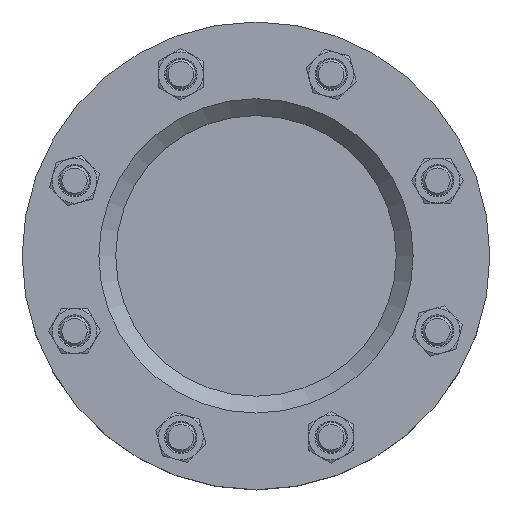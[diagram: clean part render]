
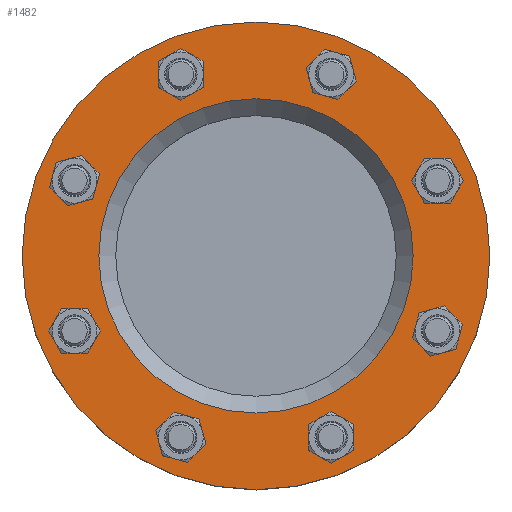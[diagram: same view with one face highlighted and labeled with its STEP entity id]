
A CAD part, top view. The second image highlights one B-rep face of the part: STEP entity #1482.
In plain terms, the highlighted planar face has unit normal (0, 0, 1) as drawn and (0, 0, -1) by its records, which use the part's own axes.
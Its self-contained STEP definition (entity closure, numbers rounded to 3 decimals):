
#179=PLANE('',#1644);
#283=ORIENTED_EDGE('',*,*,#435,.F.);
#284=ORIENTED_EDGE('',*,*,#436,.F.);
#285=ORIENTED_EDGE('',*,*,#437,.F.);
#286=ORIENTED_EDGE('',*,*,#438,.F.);
#287=ORIENTED_EDGE('',*,*,#439,.F.);
#288=ORIENTED_EDGE('',*,*,#440,.F.);
#289=ORIENTED_EDGE('',*,*,#441,.F.);
#290=ORIENTED_EDGE('',*,*,#442,.F.);
#291=ORIENTED_EDGE('',*,*,#443,.T.);
#292=ORIENTED_EDGE('',*,*,#425,.T.);
#425=EDGE_CURVE('',#529,#529,#619,.T.);
#435=EDGE_CURVE('',#539,#539,#629,.T.);
#436=EDGE_CURVE('',#540,#540,#630,.T.);
#437=EDGE_CURVE('',#541,#541,#631,.T.);
#438=EDGE_CURVE('',#542,#542,#632,.T.);
#439=EDGE_CURVE('',#543,#543,#633,.T.);
#440=EDGE_CURVE('',#544,#544,#634,.T.);
#441=EDGE_CURVE('',#545,#545,#635,.T.);
#442=EDGE_CURVE('',#546,#546,#636,.T.);
#443=EDGE_CURVE('',#547,#547,#637,.F.);
#529=VERTEX_POINT('',#2227);
#539=VERTEX_POINT('',#2249);
#540=VERTEX_POINT('',#2251);
#541=VERTEX_POINT('',#2253);
#542=VERTEX_POINT('',#2255);
#543=VERTEX_POINT('',#2257);
#544=VERTEX_POINT('',#2259);
#545=VERTEX_POINT('',#2261);
#546=VERTEX_POINT('',#2263);
#547=VERTEX_POINT('',#2265);
#619=CIRCLE('',#1633,125.);
#629=CIRCLE('',#1645,9.);
#630=CIRCLE('',#1646,9.);
#631=CIRCLE('',#1647,9.);
#632=CIRCLE('',#1648,9.);
#633=CIRCLE('',#1649,9.);
#634=CIRCLE('',#1650,9.);
#635=CIRCLE('',#1651,9.);
#636=CIRCLE('',#1652,9.);
#637=CIRCLE('',#1653,84.);
#747=EDGE_LOOP('',(#283));
#748=EDGE_LOOP('',(#284));
#749=EDGE_LOOP('',(#285));
#750=EDGE_LOOP('',(#286));
#751=EDGE_LOOP('',(#287));
#752=EDGE_LOOP('',(#288));
#753=EDGE_LOOP('',(#289));
#754=EDGE_LOOP('',(#290));
#755=EDGE_LOOP('',(#291));
#756=EDGE_LOOP('',(#292));
#919=FACE_BOUND('',#747,.T.);
#920=FACE_BOUND('',#748,.T.);
#921=FACE_BOUND('',#749,.T.);
#922=FACE_BOUND('',#750,.T.);
#923=FACE_BOUND('',#751,.T.);
#924=FACE_BOUND('',#752,.T.);
#925=FACE_BOUND('',#753,.T.);
#926=FACE_BOUND('',#754,.T.);
#927=FACE_BOUND('',#755,.T.);
#928=FACE_BOUND('',#756,.T.);
#1482=ADVANCED_FACE('',(#919,#920,#921,#922,#923,#924,#925,#926,#927,#928),
#179,.T.);
#1633=AXIS2_PLACEMENT_3D('',#2226,#1901,#1902);
#1644=AXIS2_PLACEMENT_3D('',#2247,#1923,#1924);
#1645=AXIS2_PLACEMENT_3D('',#2248,#1925,#1926);
#1646=AXIS2_PLACEMENT_3D('',#2250,#1927,#1928);
#1647=AXIS2_PLACEMENT_3D('',#2252,#1929,#1930);
#1648=AXIS2_PLACEMENT_3D('',#2254,#1931,#1932);
#1649=AXIS2_PLACEMENT_3D('',#2256,#1933,#1934);
#1650=AXIS2_PLACEMENT_3D('',#2258,#1935,#1936);
#1651=AXIS2_PLACEMENT_3D('',#2260,#1937,#1938);
#1652=AXIS2_PLACEMENT_3D('',#2262,#1939,#1940);
#1653=AXIS2_PLACEMENT_3D('',#2264,#1941,#1942);
#1901=DIRECTION('',(0.,0.,-1.));
#1902=DIRECTION('',(1.,0.,0.));
#1923=DIRECTION('',(0.,0.,-1.));
#1924=DIRECTION('',(-1.,0.,0.));
#1925=DIRECTION('',(0.,0.,-1.));
#1926=DIRECTION('',(0.707,-0.707,0.));
#1927=DIRECTION('',(0.,0.,-1.));
#1928=DIRECTION('',(0.,-1.,0.));
#1929=DIRECTION('',(0.,0.,-1.));
#1930=DIRECTION('',(-0.707,-0.707,0.));
#1931=DIRECTION('',(0.,0.,-1.));
#1932=DIRECTION('',(-1.,0.,0.));
#1933=DIRECTION('',(0.,0.,-1.));
#1934=DIRECTION('',(-0.707,0.707,0.));
#1935=DIRECTION('',(0.,0.,-1.));
#1936=DIRECTION('',(0.,1.,0.));
#1937=DIRECTION('',(0.,0.,-1.));
#1938=DIRECTION('',(0.707,0.707,0.));
#1939=DIRECTION('',(0.,0.,-1.));
#1940=DIRECTION('',(1.,0.,0.));
#1941=DIRECTION('',(0.,0.,-1.));
#1942=DIRECTION('',(-1.,0.,0.));
#2226=CARTESIAN_POINT('',(0.,0.,0.));
#2227=CARTESIAN_POINT('',(125.,0.,0.));
#2247=CARTESIAN_POINT('',(0.,0.,0.));
#2248=CARTESIAN_POINT('',(-40.182,-97.007,0.));
#2249=CARTESIAN_POINT('',(-33.818,-103.371,0.));
#2250=CARTESIAN_POINT('',(-97.007,-40.182,0.));
#2251=CARTESIAN_POINT('',(-97.007,-49.182,0.));
#2252=CARTESIAN_POINT('',(-97.007,40.182,0.));
#2253=CARTESIAN_POINT('',(-103.371,33.818,0.));
#2254=CARTESIAN_POINT('',(-40.182,97.007,0.));
#2255=CARTESIAN_POINT('',(-49.182,97.007,0.));
#2256=CARTESIAN_POINT('',(40.182,97.007,0.));
#2257=CARTESIAN_POINT('',(33.818,103.371,0.));
#2258=CARTESIAN_POINT('',(97.007,40.182,0.));
#2259=CARTESIAN_POINT('',(97.007,49.182,0.));
#2260=CARTESIAN_POINT('',(97.007,-40.182,0.));
#2261=CARTESIAN_POINT('',(103.371,-33.818,0.));
#2262=CARTESIAN_POINT('',(40.182,-97.007,0.));
#2263=CARTESIAN_POINT('',(49.182,-97.007,0.));
#2264=CARTESIAN_POINT('',(0.,0.,0.));
#2265=CARTESIAN_POINT('',(-84.,0.,0.));
